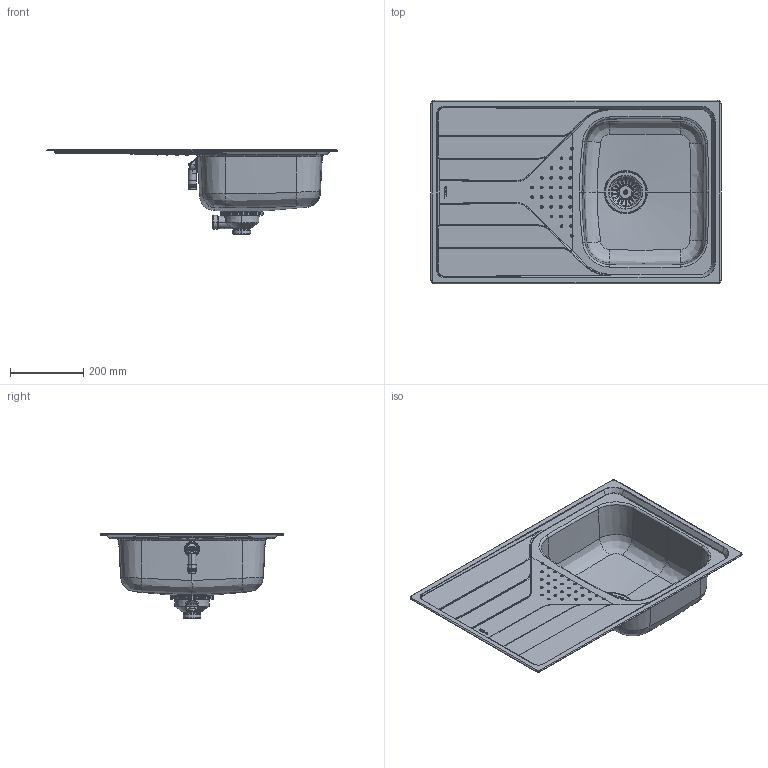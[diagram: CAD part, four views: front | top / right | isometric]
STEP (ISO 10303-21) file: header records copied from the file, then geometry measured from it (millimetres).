
FILE_DESCRIPTION((''),'2;1');
FILE_NAME('UNIVERSE_45_1B_1D_CTG_ASM','2020-05-08T14:51:11',('crodriguez'),('TEKA INDUSTRIAL, S.A.'),'CREO PARAMETRIC BY PTC INC, 2017380','CREO PARAMETRIC BY PTC INC, 2017380','');
FILE_SCHEMA(('CONFIG_CONTROL_DESIGN'));
Length unit declared in the file: millimetre
Products named in the file (22): UNIVERSE_45_1B_1D; A2M00033142_21_PER_MESSA_IN_TAV; A2M00031581; A2MC00002021_MONTATA; A2MC00002029; A2M00023878; VALVULA_GT_ASM; A2M00018606; A2M00000194_COMPRESSA_2_6; A2M00000201; A2MC00000594_ASM; A2M00028239; A2M00028245; A2M00028754; A2MC00002027; CESTILLA_ASM; A2M00000862_TUTTO; A2MC00001371_M5_L_030_TUTTO; A2MC00005904_TUTTO; A2MC00000888_M5_TUTTO; REBOSADERO_REDONDO_ASM; UNIVERSE_45_1B_1D_CTG_ASM
Assembly tree (21 placements, depth 4):
  UNIVERSE_45_1B_1D_CTG_ASM
    UNIVERSE_45_1B_1D
    VALVULA_GT_ASM
      A2M00033142_21_PER_MESSA_IN_TAV
      A2M00031581
      A2MC00002021_MONTATA
      A2MC00002029
      A2M00023878
    CESTILLA_ASM
      A2MC00000594_ASM
        A2M00018606
        A2M00000194_COMPRESSA_2_6
        A2M00000201
      A2M00028239
      A2M00028245
      A2M00028754
      A2MC00002027
    REBOSADERO_REDONDO_ASM
      A2M00000862_TUTTO
      A2MC00001371_M5_L_030_TUTTO
      A2MC00005904_TUTTO
      A2MC00000888_M5_TUTTO
Bounding box: 790 x 500 x 232.48 mm (x, y, z)
Volume: 43647.4 mm3; surface area: 708047.4 mm2
Topology: 15 solids, 17 shells, 1382 faces, 3677 edges, 2272 vertices
Faces by surface type: cone 288, cylinder 276, torus 274, plane 271, bspline 155, sphere 88, extrusion 24, revolution 6
Entity records: 58551 total; most frequent: CARTESIAN_POINT 25399, ORIENTED_EDGE 7116, DIRECTION 6607, EDGE_CURVE 3589, AXIS2_PLACEMENT_3D 2827, VERTEX_POINT 2272, CIRCLE 1570, EDGE_LOOP 1521
